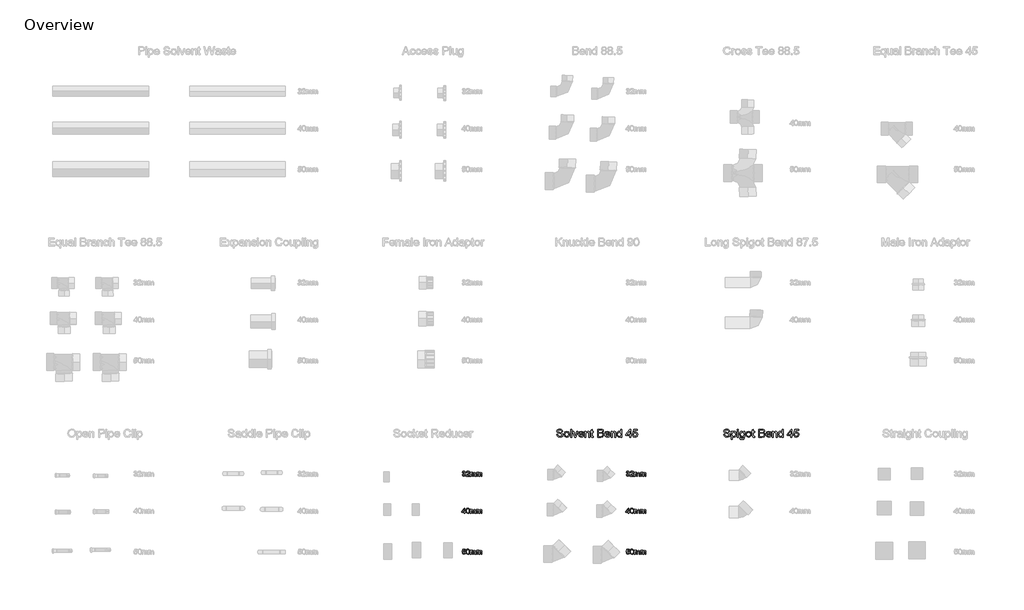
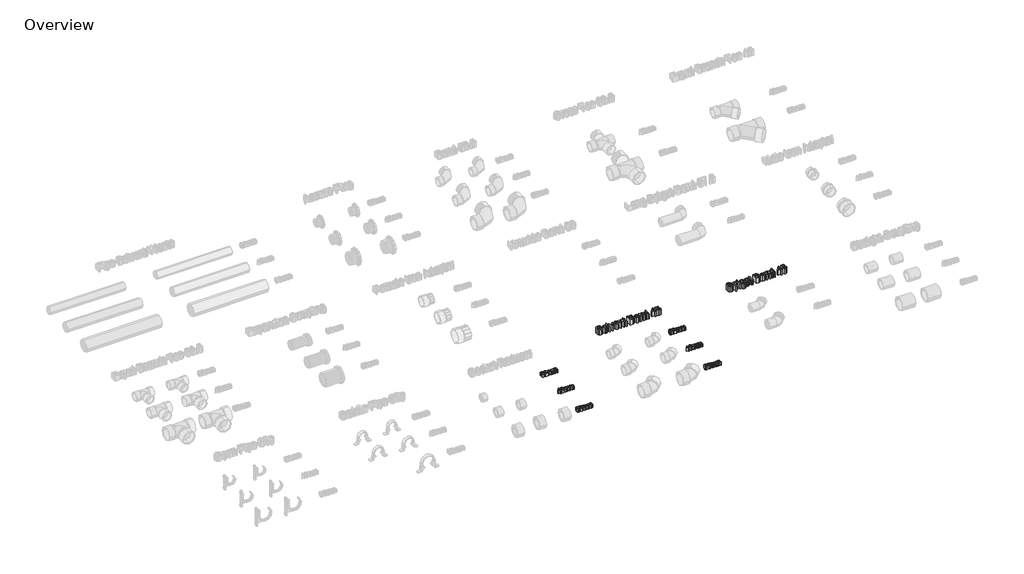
# One storey, part 3 of 10: 8 proxies.
"""IFC4 building model written with IfcOpenShell, lengths in millimetres."""

from ifc_helpers import new_model, si_unit, origin, origin_with_axes, place, context, project, spatial, polyline, outline, extrude, element, save

model = new_model("IFC4")

# Units and contexts
model_context = context("Model", 3, world=origin())
ifc_project = project(units=[si_unit("LENGTHUNIT", "METRE", prefix="MILLI")], contexts=[model_context])

# Site, building, storey
site = spatial("IfcSite", under=ifc_project)
building = spatial("IfcBuilding", under=site)
storey = spatial("IfcBuildingStorey", under=building, Name="Overview", Elevation=0.0)

# Proxies
placement = place(None, origin())
element("IfcBuildingElementProxy", 1, Name="20mm Arial", ObjectType="20mm Arial", at=placement, inside=storey, context=model_context, shape_type="SweptSolid", body=[
    extrude(outline(polyline([(-1698.2349117, 3721.4652453), (-1695.7733732, 3721.7729376), (-1694.4152001, 3719.1815914), (-1691.8743347, 3718.3883222), (-1688.8839501, 3719.4796684), (-1687.7733732, 3722.1815914), (-1688.8743347, 3724.7272645), (-1691.6724117, 3725.7344761), (-1693.3983732, 3725.4652453), (-1693.1243347, 3727.9267837), (-1689.9368347, 3728.6046684), (-1688.6964501, 3730.7777453), (-1689.5954886, 3732.7032261), (-1691.9127963, 3733.4652453), (-1694.2589501, 3732.6960145), (-1695.4656809, 3730.3883222), (-1697.9272194, 3730.6960145), (-1695.9127963, 3734.5565914), (-1691.9993347, 3735.9267837), (-1689.0305847, 3735.251303), (-1686.9536617, 3733.4051491), (-1686.2349117, 3730.9219761), (-1686.917604, 3728.6527453), (-1688.9368347, 3727.0229376), (-1686.2541424, 3725.3402453), (-1685.3118347, 3722.1383222), (-1687.1964501, 3717.7344761), (-1691.9608732, 3715.9267837), (-1696.2781809, 3717.470053), (-1698.2349117, 3721.4652453)])), origin_with_axes(), (0.0, 0.0, 1.0), 15.0),
    extrude(outline(polyline([(-1670.542604, 3718.6960145), (-1670.542604, 3716.2344761), (-1683.4656809, 3716.2344761), (-1683.2012578, 3717.9315914), (-1681.7060655, 3720.5445722), (-1678.6243347, 3723.3979376), (-1674.3743347, 3727.4988991), (-1673.3118347, 3730.2873607), (-1674.3142386, 3732.5445722), (-1676.9320271, 3733.4652453), (-1679.6603924, 3732.5662068), (-1680.6964501, 3730.0806299), (-1683.1579886, 3730.3883222), (-1681.2709694, 3734.5085145), (-1676.8791424, 3735.9267837), (-1672.4728924, 3734.3498607), (-1670.8502963, 3730.4363991), (-1671.2877963, 3728.1022645), (-1672.7421232, 3725.688803), (-1676.2685655, 3722.3162068), (-1679.1002963, 3719.9484184), (-1680.2108732, 3718.6960145), (-1670.542604, 3718.6960145)])), origin_with_axes(), (0.0, 0.0, 1.0), 15.0),
    extrude(outline(polyline([(-1667.4656809, 3716.2344761), (-1667.4656809, 3730.6960145), (-1665.0041424, 3730.6960145), (-1665.0041424, 3728.3162068), (-1663.3118347, 3730.2657261), (-1660.9031809, 3731.0037068), (-1658.4368347, 3730.251303), (-1657.0810655, 3728.1431299), (-1652.7349117, 3731.0037068), (-1649.5161617, 3729.813803), (-1648.3887578, 3726.1479376), (-1648.3887578, 3716.2344761), (-1650.8502963, 3716.2344761), (-1650.8502963, 3725.0902453), (-1651.0786617, 3727.1455337), (-1655.7325078, 3727.5565914), (-1656.6964501, 3724.3979376), (-1656.6964501, 3716.2344761), (-1659.1579886, 3716.2344761), (-1659.1579886, 3725.3642837), (-1659.7277001, 3727.7488991), (-1661.5954886, 3728.5421684), (-1663.417604, 3728.0133222), (-1664.6291424, 3726.4652453), (-1665.0041424, 3723.5277453), (-1665.0041424, 3716.2344761), (-1667.4656809, 3716.2344761)])), origin_with_axes(), (0.0, 0.0, 1.0), 15.0),
    extrude(outline(polyline([(-1644.6964501, 3716.2344761), (-1644.6964501, 3730.6960145), (-1642.2349117, 3730.6960145), (-1642.2349117, 3728.3162068), (-1640.542604, 3730.2657261), (-1638.1339501, 3731.0037068), (-1635.667604, 3730.251303), (-1634.3118347, 3728.1431299), (-1629.9656809, 3731.0037068), (-1626.7469309, 3729.813803), (-1625.6195271, 3726.1479376), (-1625.6195271, 3716.2344761), (-1628.0810655, 3716.2344761), (-1628.0810655, 3725.0902453), (-1628.3094309, 3727.1455337), (-1632.9632771, 3727.5565914), (-1633.9272194, 3724.3979376), (-1633.9272194, 3716.2344761), (-1636.3887578, 3716.2344761), (-1636.3887578, 3725.3642837), (-1636.9584694, 3727.7488991), (-1638.8262578, 3728.5421684), (-1640.6483732, 3728.0133222), (-1641.8599117, 3726.4652453), (-1642.2349117, 3723.5277453), (-1642.2349117, 3716.2344761), (-1644.6964501, 3716.2344761)])), origin_with_axes(), (0.0, 0.0, 1.0), 15.0),
])
element("IfcBuildingElementProxy", 2, Name="20mm Arial", ObjectType="20mm Arial", at=placement, inside=storey, context=model_context, shape_type="SweptSolid", body=[
    extrude(outline(polyline([(-1690.2349117, 3580.5685355), (-1690.2349117, 3585.1839201), (-1699.1579886, 3585.1839201), (-1699.1579886, 3587.6454586), (-1689.6195271, 3599.9531509), (-1687.7733732, 3599.9531509), (-1687.7733732, 3587.6454586), (-1685.3118347, 3587.6454586), (-1685.3118347, 3585.1839201), (-1687.7733732, 3585.1839201), (-1687.7733732, 3580.5685355), (-1690.2349117, 3580.5685355)]), holes=[polyline([(-1690.2349117, 3587.6454586), (-1690.2349117, 3595.2512278), (-1696.1291424, 3587.6454586), (-1690.2349117, 3587.6454586)])]), origin_with_axes(), (0.0, 0.0, 1.0), 15.0),
    extrude(outline(polyline([(-1683.1579886, 3590.2560355), (-1682.4344309, 3595.9219009), (-1680.2853924, 3599.1887278), (-1676.6964501, 3600.2608432), (-1673.8214501, 3599.6262278), (-1671.8358732, 3597.7969009), (-1670.6820271, 3594.8834393), (-1670.2349117, 3590.2560355), (-1670.9512578, 3584.6142086), (-1673.0930847, 3581.3401701), (-1676.6964501, 3580.2608432), (-1681.1964501, 3582.1358432), (-1683.1579886, 3590.2560355)]), holes=[polyline([(-1680.6964501, 3590.2608432), (-1679.542604, 3584.1478624), (-1676.6964501, 3582.7223816), (-1673.8502963, 3584.1526701), (-1672.6964501, 3590.2608432), (-1673.8118347, 3596.3041124), (-1676.7252963, 3597.7993047), (-1679.5041424, 3596.481997), (-1680.6964501, 3590.2608432)])]), origin_with_axes(), (0.0, 0.0, 1.0), 15.0),
    extrude(outline(polyline([(-1667.4656809, 3580.5685355), (-1667.4656809, 3595.030074), (-1665.0041424, 3595.030074), (-1665.0041424, 3592.6502663), (-1663.3118347, 3594.5997855), (-1660.9031809, 3595.3377663), (-1658.4368347, 3594.5853624), (-1657.0810655, 3592.4771893), (-1652.7349117, 3595.3377663), (-1649.5161617, 3594.1478624), (-1648.3887578, 3590.481997), (-1648.3887578, 3580.5685355), (-1650.8502963, 3580.5685355), (-1650.8502963, 3589.4243047), (-1651.0786617, 3591.4795932), (-1655.7325078, 3591.8906509), (-1656.6964501, 3588.731997), (-1656.6964501, 3580.5685355), (-1659.1579886, 3580.5685355), (-1659.1579886, 3589.6983432), (-1659.7277001, 3592.0829586), (-1661.5954886, 3592.8762278), (-1663.417604, 3592.3473816), (-1664.6291424, 3590.7993047), (-1665.0041424, 3587.8618047), (-1665.0041424, 3580.5685355), (-1667.4656809, 3580.5685355)])), origin_with_axes(), (0.0, 0.0, 1.0), 15.0),
    extrude(outline(polyline([(-1644.6964501, 3580.5685355), (-1644.6964501, 3595.030074), (-1642.2349117, 3595.030074), (-1642.2349117, 3592.6502663), (-1640.542604, 3594.5997855), (-1638.1339501, 3595.3377663), (-1635.667604, 3594.5853624), (-1634.3118347, 3592.4771893), (-1629.9656809, 3595.3377663), (-1626.7469309, 3594.1478624), (-1625.6195271, 3590.481997), (-1625.6195271, 3580.5685355), (-1628.0810655, 3580.5685355), (-1628.0810655, 3589.4243047), (-1628.3094309, 3591.4795932), (-1632.9632771, 3591.8906509), (-1633.9272194, 3588.731997), (-1633.9272194, 3580.5685355), (-1636.3887578, 3580.5685355), (-1636.3887578, 3589.6983432), (-1636.9584694, 3592.0829586), (-1638.8262578, 3592.8762278), (-1640.6483732, 3592.3473816), (-1641.8599117, 3590.7993047), (-1642.2349117, 3587.8618047), (-1642.2349117, 3580.5685355), (-1644.6964501, 3580.5685355)])), origin_with_axes(), (0.0, 0.0, 1.0), 15.0),
])
element("IfcBuildingElementProxy", 3, Name="20mm Arial", ObjectType="20mm Arial", at=placement, inside=storey, context=model_context, shape_type="SweptSolid", body=[
    extrude(outline(polyline([(-1698.2349117, 3436.1445961), (-1695.7733732, 3436.4522884), (-1694.5329886, 3433.9162307), (-1691.9608732, 3433.067673), (-1688.8743347, 3434.2479615), (-1687.7733732, 3437.380173), (-1688.8046232, 3440.3032499), (-1691.9224117, 3441.3753653), (-1694.0834694, 3440.9474807), (-1695.4656809, 3439.8369038), (-1697.9272194, 3440.1445961), (-1695.7733732, 3450.2984422), (-1686.2349117, 3450.2984422), (-1686.2349117, 3447.8369038), (-1693.7829886, 3447.8369038), (-1694.8358732, 3442.4138269), (-1691.2349117, 3443.8369038), (-1687.0257771, 3442.0724807), (-1685.3118347, 3437.5340192), (-1686.855104, 3432.9667115), (-1691.9704886, 3430.6061346), (-1696.3142386, 3432.1229615), (-1698.2349117, 3436.1445961)])), origin_with_axes(), (0.0, 0.0, 1.0), 15.0),
    extrude(outline(polyline([(-1683.1579886, 3440.6013269), (-1682.4344309, 3446.2671922), (-1680.2853924, 3449.5340192), (-1676.6964501, 3450.6061346), (-1673.8214501, 3449.9715192), (-1671.8358732, 3448.1421922), (-1670.6820271, 3445.2287307), (-1670.2349117, 3440.6013269), (-1670.9512578, 3434.9594999), (-1673.0930847, 3431.6854615), (-1676.6964501, 3430.6061346), (-1681.1964501, 3432.4811346), (-1683.1579886, 3440.6013269)]), holes=[polyline([(-1680.6964501, 3440.6061346), (-1679.542604, 3434.4931538), (-1676.6964501, 3433.067673), (-1673.8502963, 3434.4979615), (-1672.6964501, 3440.6061346), (-1673.8118347, 3446.6494038), (-1676.7252963, 3448.1445961), (-1679.5041424, 3446.8272884), (-1680.6964501, 3440.6061346)])]), origin_with_axes(), (0.0, 0.0, 1.0), 15.0),
    extrude(outline(polyline([(-1667.4656809, 3430.9138269), (-1667.4656809, 3445.3753653), (-1665.0041424, 3445.3753653), (-1665.0041424, 3442.9955576), (-1663.3118347, 3444.9450769), (-1660.9031809, 3445.6830576), (-1658.4368347, 3444.9306538), (-1657.0810655, 3442.8224807), (-1652.7349117, 3445.6830576), (-1649.5161617, 3444.4931538), (-1648.3887578, 3440.8272884), (-1648.3887578, 3430.9138269), (-1650.8502963, 3430.9138269), (-1650.8502963, 3439.7695961), (-1651.0786617, 3441.8248846), (-1655.7325078, 3442.2359422), (-1656.6964501, 3439.0772884), (-1656.6964501, 3430.9138269), (-1659.1579886, 3430.9138269), (-1659.1579886, 3440.0436346), (-1659.7277001, 3442.4282499), (-1661.5954886, 3443.2215192), (-1663.417604, 3442.692673), (-1664.6291424, 3441.1445961), (-1665.0041424, 3438.2070961), (-1665.0041424, 3430.9138269), (-1667.4656809, 3430.9138269)])), origin_with_axes(), (0.0, 0.0, 1.0), 15.0),
    extrude(outline(polyline([(-1644.6964501, 3430.9138269), (-1644.6964501, 3445.3753653), (-1642.2349117, 3445.3753653), (-1642.2349117, 3442.9955576), (-1640.542604, 3444.9450769), (-1638.1339501, 3445.6830576), (-1635.667604, 3444.9306538), (-1634.3118347, 3442.8224807), (-1629.9656809, 3445.6830576), (-1626.7469309, 3444.4931538), (-1625.6195271, 3440.8272884), (-1625.6195271, 3430.9138269), (-1628.0810655, 3430.9138269), (-1628.0810655, 3439.7695961), (-1628.3094309, 3441.8248846), (-1632.9632771, 3442.2359422), (-1633.9272194, 3439.0772884), (-1633.9272194, 3430.9138269), (-1636.3887578, 3430.9138269), (-1636.3887578, 3440.0436346), (-1636.9584694, 3442.4282499), (-1638.8262578, 3443.2215192), (-1640.6483732, 3442.692673), (-1641.8599117, 3441.1445961), (-1642.2349117, 3438.2070961), (-1642.2349117, 3430.9138269), (-1644.6964501, 3430.9138269)])), origin_with_axes(), (0.0, 0.0, 1.0), 15.0),
])
element("IfcBuildingElementProxy", 4, Name="20mm Arial", ObjectType="20mm Arial", at=placement, inside=storey, context=model_context, shape_type="SweptSolid", body=[
    extrude(outline(polyline([(-1098.2349117, 3721.4652453), (-1095.7733732, 3721.7729376), (-1094.4152001, 3719.1815914), (-1091.8743347, 3718.3883222), (-1088.8839501, 3719.4796684), (-1087.7733732, 3722.1815914), (-1088.8743347, 3724.7272645), (-1091.6724117, 3725.7344761), (-1093.3983732, 3725.4652453), (-1093.1243347, 3727.9267837), (-1089.9368347, 3728.6046684), (-1088.6964501, 3730.7777453), (-1089.5954886, 3732.7032261), (-1091.9127963, 3733.4652453), (-1094.2589501, 3732.6960145), (-1095.4656809, 3730.3883222), (-1097.9272194, 3730.6960145), (-1095.9127963, 3734.5565914), (-1091.9993347, 3735.9267837), (-1089.0305847, 3735.251303), (-1086.9536617, 3733.4051491), (-1086.2349117, 3730.9219761), (-1086.917604, 3728.6527453), (-1088.9368347, 3727.0229376), (-1086.2541424, 3725.3402453), (-1085.3118347, 3722.1383222), (-1087.1964501, 3717.7344761), (-1091.9608732, 3715.9267837), (-1096.2781809, 3717.470053), (-1098.2349117, 3721.4652453)])), origin_with_axes(), (0.0, 0.0, 1.0), 15.0),
    extrude(outline(polyline([(-1070.542604, 3718.6960145), (-1070.542604, 3716.2344761), (-1083.4656809, 3716.2344761), (-1083.2012578, 3717.9315914), (-1081.7060655, 3720.5445722), (-1078.6243347, 3723.3979376), (-1074.3743347, 3727.4988991), (-1073.3118347, 3730.2873607), (-1074.3142386, 3732.5445722), (-1076.9320271, 3733.4652453), (-1079.6603924, 3732.5662068), (-1080.6964501, 3730.0806299), (-1083.1579886, 3730.3883222), (-1081.2709694, 3734.5085145), (-1076.8791424, 3735.9267837), (-1072.4728924, 3734.3498607), (-1070.8502963, 3730.4363991), (-1071.2877963, 3728.1022645), (-1072.7421232, 3725.688803), (-1076.2685655, 3722.3162068), (-1079.1002963, 3719.9484184), (-1080.2108732, 3718.6960145), (-1070.542604, 3718.6960145)])), origin_with_axes(), (0.0, 0.0, 1.0), 15.0),
    extrude(outline(polyline([(-1067.4656809, 3716.2344761), (-1067.4656809, 3730.6960145), (-1065.0041424, 3730.6960145), (-1065.0041424, 3728.3162068), (-1063.3118347, 3730.2657261), (-1060.9031809, 3731.0037068), (-1058.4368347, 3730.251303), (-1057.0810655, 3728.1431299), (-1052.7349117, 3731.0037068), (-1049.5161617, 3729.813803), (-1048.3887578, 3726.1479376), (-1048.3887578, 3716.2344761), (-1050.8502963, 3716.2344761), (-1050.8502963, 3725.0902453), (-1051.0786617, 3727.1455337), (-1055.7325078, 3727.5565914), (-1056.6964501, 3724.3979376), (-1056.6964501, 3716.2344761), (-1059.1579886, 3716.2344761), (-1059.1579886, 3725.3642837), (-1059.7277001, 3727.7488991), (-1061.5954886, 3728.5421684), (-1063.417604, 3728.0133222), (-1064.6291424, 3726.4652453), (-1065.0041424, 3723.5277453), (-1065.0041424, 3716.2344761), (-1067.4656809, 3716.2344761)])), origin_with_axes(), (0.0, 0.0, 1.0), 15.0),
    extrude(outline(polyline([(-1044.6964501, 3716.2344761), (-1044.6964501, 3730.6960145), (-1042.2349117, 3730.6960145), (-1042.2349117, 3728.3162068), (-1040.542604, 3730.2657261), (-1038.1339501, 3731.0037068), (-1035.667604, 3730.251303), (-1034.3118347, 3728.1431299), (-1029.9656809, 3731.0037068), (-1026.7469309, 3729.813803), (-1025.6195271, 3726.1479376), (-1025.6195271, 3716.2344761), (-1028.0810655, 3716.2344761), (-1028.0810655, 3725.0902453), (-1028.3094309, 3727.1455337), (-1032.9632771, 3727.5565914), (-1033.9272194, 3724.3979376), (-1033.9272194, 3716.2344761), (-1036.3887578, 3716.2344761), (-1036.3887578, 3725.3642837), (-1036.9584694, 3727.7488991), (-1038.8262578, 3728.5421684), (-1040.6483732, 3728.0133222), (-1041.8599117, 3726.4652453), (-1042.2349117, 3723.5277453), (-1042.2349117, 3716.2344761), (-1044.6964501, 3716.2344761)])), origin_with_axes(), (0.0, 0.0, 1.0), 15.0),
])
element("IfcBuildingElementProxy", 5, Name="20mm Arial", ObjectType="20mm Arial", at=placement, inside=storey, context=model_context, shape_type="SweptSolid", body=[
    extrude(outline(polyline([(-1090.2349117, 3580.5685355), (-1090.2349117, 3585.1839201), (-1099.1579886, 3585.1839201), (-1099.1579886, 3587.6454586), (-1089.6195271, 3599.9531509), (-1087.7733732, 3599.9531509), (-1087.7733732, 3587.6454586), (-1085.3118347, 3587.6454586), (-1085.3118347, 3585.1839201), (-1087.7733732, 3585.1839201), (-1087.7733732, 3580.5685355), (-1090.2349117, 3580.5685355)]), holes=[polyline([(-1090.2349117, 3587.6454586), (-1090.2349117, 3595.2512278), (-1096.1291424, 3587.6454586), (-1090.2349117, 3587.6454586)])]), origin_with_axes(), (0.0, 0.0, 1.0), 15.0),
    extrude(outline(polyline([(-1083.1579886, 3590.2560355), (-1082.4344309, 3595.9219009), (-1080.2853924, 3599.1887278), (-1076.6964501, 3600.2608432), (-1073.8214501, 3599.6262278), (-1071.8358732, 3597.7969009), (-1070.6820271, 3594.8834393), (-1070.2349117, 3590.2560355), (-1070.9512578, 3584.6142086), (-1073.0930847, 3581.3401701), (-1076.6964501, 3580.2608432), (-1081.1964501, 3582.1358432), (-1083.1579886, 3590.2560355)]), holes=[polyline([(-1080.6964501, 3590.2608432), (-1079.542604, 3584.1478624), (-1076.6964501, 3582.7223816), (-1073.8502963, 3584.1526701), (-1072.6964501, 3590.2608432), (-1073.8118347, 3596.3041124), (-1076.7252963, 3597.7993047), (-1079.5041424, 3596.481997), (-1080.6964501, 3590.2608432)])]), origin_with_axes(), (0.0, 0.0, 1.0), 15.0),
    extrude(outline(polyline([(-1067.4656809, 3580.5685355), (-1067.4656809, 3595.030074), (-1065.0041424, 3595.030074), (-1065.0041424, 3592.6502663), (-1063.3118347, 3594.5997855), (-1060.9031809, 3595.3377663), (-1058.4368347, 3594.5853624), (-1057.0810655, 3592.4771893), (-1052.7349117, 3595.3377663), (-1049.5161617, 3594.1478624), (-1048.3887578, 3590.481997), (-1048.3887578, 3580.5685355), (-1050.8502963, 3580.5685355), (-1050.8502963, 3589.4243047), (-1051.0786617, 3591.4795932), (-1055.7325078, 3591.8906509), (-1056.6964501, 3588.731997), (-1056.6964501, 3580.5685355), (-1059.1579886, 3580.5685355), (-1059.1579886, 3589.6983432), (-1059.7277001, 3592.0829586), (-1061.5954886, 3592.8762278), (-1063.417604, 3592.3473816), (-1064.6291424, 3590.7993047), (-1065.0041424, 3587.8618047), (-1065.0041424, 3580.5685355), (-1067.4656809, 3580.5685355)])), origin_with_axes(), (0.0, 0.0, 1.0), 15.0),
    extrude(outline(polyline([(-1044.6964501, 3580.5685355), (-1044.6964501, 3595.030074), (-1042.2349117, 3595.030074), (-1042.2349117, 3592.6502663), (-1040.542604, 3594.5997855), (-1038.1339501, 3595.3377663), (-1035.667604, 3594.5853624), (-1034.3118347, 3592.4771893), (-1029.9656809, 3595.3377663), (-1026.7469309, 3594.1478624), (-1025.6195271, 3590.481997), (-1025.6195271, 3580.5685355), (-1028.0810655, 3580.5685355), (-1028.0810655, 3589.4243047), (-1028.3094309, 3591.4795932), (-1032.9632771, 3591.8906509), (-1033.9272194, 3588.731997), (-1033.9272194, 3580.5685355), (-1036.3887578, 3580.5685355), (-1036.3887578, 3589.6983432), (-1036.9584694, 3592.0829586), (-1038.8262578, 3592.8762278), (-1040.6483732, 3592.3473816), (-1041.8599117, 3590.7993047), (-1042.2349117, 3587.8618047), (-1042.2349117, 3580.5685355), (-1044.6964501, 3580.5685355)])), origin_with_axes(), (0.0, 0.0, 1.0), 15.0),
])
element("IfcBuildingElementProxy", 6, Name="20mm Arial", ObjectType="20mm Arial", at=placement, inside=storey, context=model_context, shape_type="SweptSolid", body=[
    extrude(outline(polyline([(-1098.2349117, 3436.1445961), (-1095.7733732, 3436.4522884), (-1094.5329886, 3433.9162307), (-1091.9608732, 3433.067673), (-1088.8743347, 3434.2479615), (-1087.7733732, 3437.380173), (-1088.8046232, 3440.3032499), (-1091.9224117, 3441.3753653), (-1094.0834694, 3440.9474807), (-1095.4656809, 3439.8369038), (-1097.9272194, 3440.1445961), (-1095.7733732, 3450.2984422), (-1086.2349117, 3450.2984422), (-1086.2349117, 3447.8369038), (-1093.7829886, 3447.8369038), (-1094.8358732, 3442.4138269), (-1091.2349117, 3443.8369038), (-1087.0257771, 3442.0724807), (-1085.3118347, 3437.5340192), (-1086.855104, 3432.9667115), (-1091.9704886, 3430.6061346), (-1096.3142386, 3432.1229615), (-1098.2349117, 3436.1445961)])), origin_with_axes(), (0.0, 0.0, 1.0), 15.0),
    extrude(outline(polyline([(-1083.1579886, 3440.6013269), (-1082.4344309, 3446.2671922), (-1080.2853924, 3449.5340192), (-1076.6964501, 3450.6061346), (-1073.8214501, 3449.9715192), (-1071.8358732, 3448.1421922), (-1070.6820271, 3445.2287307), (-1070.2349117, 3440.6013269), (-1070.9512578, 3434.9594999), (-1073.0930847, 3431.6854615), (-1076.6964501, 3430.6061346), (-1081.1964501, 3432.4811346), (-1083.1579886, 3440.6013269)]), holes=[polyline([(-1080.6964501, 3440.6061346), (-1079.542604, 3434.4931538), (-1076.6964501, 3433.067673), (-1073.8502963, 3434.4979615), (-1072.6964501, 3440.6061346), (-1073.8118347, 3446.6494038), (-1076.7252963, 3448.1445961), (-1079.5041424, 3446.8272884), (-1080.6964501, 3440.6061346)])]), origin_with_axes(), (0.0, 0.0, 1.0), 15.0),
    extrude(outline(polyline([(-1067.4656809, 3430.9138269), (-1067.4656809, 3445.3753653), (-1065.0041424, 3445.3753653), (-1065.0041424, 3442.9955576), (-1063.3118347, 3444.9450769), (-1060.9031809, 3445.6830576), (-1058.4368347, 3444.9306538), (-1057.0810655, 3442.8224807), (-1052.7349117, 3445.6830576), (-1049.5161617, 3444.4931538), (-1048.3887578, 3440.8272884), (-1048.3887578, 3430.9138269), (-1050.8502963, 3430.9138269), (-1050.8502963, 3439.7695961), (-1051.0786617, 3441.8248846), (-1055.7325078, 3442.2359422), (-1056.6964501, 3439.0772884), (-1056.6964501, 3430.9138269), (-1059.1579886, 3430.9138269), (-1059.1579886, 3440.0436346), (-1059.7277001, 3442.4282499), (-1061.5954886, 3443.2215192), (-1063.417604, 3442.692673), (-1064.6291424, 3441.1445961), (-1065.0041424, 3438.2070961), (-1065.0041424, 3430.9138269), (-1067.4656809, 3430.9138269)])), origin_with_axes(), (0.0, 0.0, 1.0), 15.0),
    extrude(outline(polyline([(-1044.6964501, 3430.9138269), (-1044.6964501, 3445.3753653), (-1042.2349117, 3445.3753653), (-1042.2349117, 3442.9955576), (-1040.542604, 3444.9450769), (-1038.1339501, 3445.6830576), (-1035.667604, 3444.9306538), (-1034.3118347, 3442.8224807), (-1029.9656809, 3445.6830576), (-1026.7469309, 3444.4931538), (-1025.6195271, 3440.8272884), (-1025.6195271, 3430.9138269), (-1028.0810655, 3430.9138269), (-1028.0810655, 3439.7695961), (-1028.3094309, 3441.8248846), (-1032.9632771, 3442.2359422), (-1033.9272194, 3439.0772884), (-1033.9272194, 3430.9138269), (-1036.3887578, 3430.9138269), (-1036.3887578, 3440.0436346), (-1036.9584694, 3442.4282499), (-1038.8262578, 3443.2215192), (-1040.6483732, 3442.692673), (-1041.8599117, 3441.1445961), (-1042.2349117, 3438.2070961), (-1042.2349117, 3430.9138269), (-1044.6964501, 3430.9138269)])), origin_with_axes(), (0.0, 0.0, 1.0), 15.0),
])
element("IfcBuildingElementProxy", 7, Name="600mm Arial", ObjectType="600mm Arial", at=placement, inside=storey, context=model_context, shape_type="SweptSolid", body=[
    extrude(outline(polyline([(-1352.069278, 3869.7251615), (-1348.3769703, 3869.7251615), (-1347.1870665, 3866.0292481), (-1344.2808165, 3863.6927096), (-1339.8529319, 3862.8020846), (-1335.9947588, 3863.4763635), (-1333.5031722, 3865.3297288), (-1332.6846626, 3867.8068923), (-1333.2976434, 3870.1109788), (-1335.8072588, 3871.7876615), (-1341.1834607, 3873.1975173), (-1346.9707203, 3875.0184308), (-1350.1113453, 3877.7660269), (-1351.1462011, 3881.4367), (-1349.866153, 3885.6157865), (-1346.1269703, 3888.5653058), (-1340.6534126, 3889.5713154), (-1334.8120665, 3888.5184308), (-1330.9178357, 3885.4246808), (-1329.4538934, 3880.8020846), (-1333.1462011, 3880.8020846), (-1335.2375472, 3884.5953538), (-1340.5091819, 3885.8790077), (-1345.7952396, 3884.6097769), (-1347.4538934, 3881.5448731), (-1346.2784126, 3878.9847769), (-1340.2495665, 3876.9222769), (-1333.7159126, 3875.0689115), (-1330.1425953, 3872.0761231), (-1328.9923549, 3867.9006423), (-1330.3156722, 3863.483575), (-1334.1233646, 3860.2600173), (-1339.7087011, 3859.1097769), (-1346.303653, 3860.3501615), (-1350.475528, 3864.0857385), (-1352.069278, 3869.7251615)])), origin_with_axes(), (0.0, 0.0, 1.0), 25.0),
    extrude(outline(polyline([(-1324.8385088, 3870.4174692), (-1321.6437972, 3879.3237192), (-1315.1389896, 3881.7251615), (-1308.1618261, 3878.8008827), (-1305.4538934, 3870.7203538), (-1306.6510088, 3864.1506423), (-1310.1377876, 3860.4330942), (-1315.1389896, 3859.1097769), (-1322.1594222, 3862.0232385), (-1324.8385088, 3870.4174692)]), holes=[polyline([(-1321.1462011, 3870.4246808), (-1319.4370665, 3864.702325), (-1315.1389896, 3862.8020846), (-1310.8553357, 3864.7131423), (-1309.1462011, 3870.5400654), (-1310.866153, 3876.1326135), (-1315.1389896, 3878.0328538), (-1319.4370665, 3876.139825), (-1321.1462011, 3870.4246808)])]), origin_with_axes(), (0.0, 0.0, 1.0), 25.0),
    extrude(outline(polyline([(-1301.3000472, 3859.5713154), (-1301.3000472, 3889.1097769), (-1297.6077396, 3889.1097769), (-1297.6077396, 3859.5713154), (-1301.3000472, 3859.5713154)])), origin_with_axes(), (0.0, 0.0, 1.0), 25.0),
    extrude(outline(polyline([(-1286.7471626, 3859.5713154), (-1294.3769703, 3881.2636231), (-1290.4683165, 3881.2636231), (-1285.8457203, 3868.2684308), (-1284.4538934, 3863.8982385), (-1283.0909126, 3868.0232385), (-1278.4394703, 3881.2636231), (-1274.5308165, 3881.2636231), (-1282.0668742, 3859.5713154), (-1286.7471626, 3859.5713154)])), origin_with_axes(), (0.0, 0.0, 1.0), 25.0),
    extrude(outline(polyline([(-1256.1125472, 3866.0328538), (-1252.4923549, 3865.5713154), (-1255.8781722, 3860.8044885), (-1262.1846626, 3859.1097769), (-1269.850528, 3862.0340558), (-1272.6846626, 3870.2371808), (-1269.8216819, 3878.7107385), (-1262.3937972, 3881.7251615), (-1255.178653, 3878.71795), (-1252.3769703, 3870.2588154), (-1268.9923549, 3869.2636231), (-1266.8685569, 3864.46795), (-1262.1125472, 3862.8020846), (-1258.4923549, 3863.5737192), (-1256.1125472, 3866.0328538)]), holes=[polyline([(-1268.9923549, 3872.9559308), (-1256.069278, 3872.9559308), (-1257.5476434, 3876.3020846), (-1262.4082203, 3878.0328538), (-1266.9550953, 3876.6518442), (-1268.9923549, 3872.9559308)])]), origin_with_axes(), (0.0, 0.0, 1.0), 25.0),
    extrude(outline(polyline([(-1248.6846626, 3859.5713154), (-1248.6846626, 3881.2636231), (-1244.9923549, 3881.2636231), (-1244.9923549, 3878.2347769), (-1238.3144703, 3881.7251615), (-1234.8276915, 3881.0220365), (-1232.4478838, 3879.1758827), (-1231.3409126, 3876.4607385), (-1231.1462011, 3872.8910269), (-1231.1462011, 3859.5713154), (-1234.8385088, 3859.5713154), (-1234.8385088, 3872.3934308), (-1235.2639896, 3875.6602577), (-1236.7675953, 3877.3874212), (-1239.3024511, 3878.0328538), (-1243.3084607, 3876.5833346), (-1244.9923549, 3871.0809308), (-1244.9923549, 3859.5713154), (-1248.6846626, 3859.5713154)])), origin_with_axes(), (0.0, 0.0, 1.0), 25.0),
    extrude(outline(polyline([(-1218.2231242, 3862.6506423), (-1217.7615857, 3859.4631423), (-1220.5236049, 3859.1097769), (-1223.6173549, 3859.7227577), (-1225.1606242, 3861.3309308), (-1225.6077396, 3865.5208346), (-1225.6077396, 3877.5713154), (-1228.3769703, 3877.5713154), (-1228.3769703, 3881.2636231), (-1225.6077396, 3881.2636231), (-1225.6077396, 3886.5352577), (-1221.9154319, 3888.7059308), (-1221.9154319, 3881.2636231), (-1218.2231242, 3881.2636231), (-1218.2231242, 3877.5713154), (-1221.9154319, 3877.5713154), (-1221.9154319, 3865.6290077), (-1221.7207203, 3863.7251615), (-1218.2231242, 3862.6506423)])), origin_with_axes(), (0.0, 0.0, 1.0), 25.0),
    extrude(outline(polyline([(-1202.5308165, 3859.5713154), (-1202.5308165, 3889.1097769), (-1191.2591819, 3889.1097769), (-1185.7387492, 3888.2407865), (-1182.4791338, 3885.5689115), (-1181.3000472, 3881.7900654), (-1182.2916338, 3878.3393442), (-1185.288028, 3875.7251615), (-1181.6498069, 3872.9703538), (-1180.3769703, 3868.3766038), (-1181.2459607, 3864.4066519), (-1183.3986049, 3861.5797288), (-1186.6113453, 3860.0797288), (-1191.3457203, 3859.5713154), (-1202.5308165, 3859.5713154)]), holes=[polyline([(-1198.8385088, 3877.1097769), (-1192.0957203, 3877.1097769), (-1188.1582203, 3877.4270846), (-1185.7892299, 3878.7936712), (-1184.9923549, 3881.1987192), (-1185.7351434, 3883.6073731), (-1187.8625472, 3885.0316519), (-1192.6077396, 3885.4174692), (-1198.8385088, 3885.4174692), (-1198.8385088, 3877.1097769)]), polyline([(-1198.8385088, 3863.2636231), (-1191.2663934, 3863.2636231), (-1188.5260088, 3863.4078538), (-1186.2074992, 3864.2119404), (-1184.6714415, 3865.8525654), (-1184.069278, 3868.3405462), (-1184.7760088, 3871.2107385), (-1187.0656722, 3872.9234788), (-1191.6269703, 3873.4174692), (-1198.8385088, 3873.4174692), (-1198.8385088, 3863.2636231)])]), origin_with_axes(), (0.0, 0.0, 1.0), 25.0),
    extrude(outline(polyline([(-1160.5740857, 3866.0328538), (-1156.9538934, 3865.5713154), (-1160.3397107, 3860.8044885), (-1166.6462011, 3859.1097769), (-1174.3120665, 3862.0340558), (-1177.1462011, 3870.2371808), (-1174.2832203, 3878.7107385), (-1166.8553357, 3881.7251615), (-1159.6401915, 3878.71795), (-1156.8385088, 3870.2588154), (-1173.4538934, 3869.2636231), (-1171.3300953, 3864.46795), (-1166.5740857, 3862.8020846), (-1162.9538934, 3863.5737192), (-1160.5740857, 3866.0328538)]), holes=[polyline([(-1173.4538934, 3872.9559308), (-1160.5308165, 3872.9559308), (-1162.0091819, 3876.3020846), (-1166.8697588, 3878.0328538), (-1171.4166338, 3876.6518442), (-1173.4538934, 3872.9559308)])]), origin_with_axes(), (0.0, 0.0, 1.0), 25.0),
    extrude(outline(polyline([(-1153.1462011, 3859.5713154), (-1153.1462011, 3881.2636231), (-1149.4538934, 3881.2636231), (-1149.4538934, 3878.2347769), (-1142.7760088, 3881.7251615), (-1139.2892299, 3881.0220365), (-1136.9094222, 3879.1758827), (-1135.8024511, 3876.4607385), (-1135.6077396, 3872.8910269), (-1135.6077396, 3859.5713154), (-1139.3000472, 3859.5713154), (-1139.3000472, 3872.3934308), (-1139.725528, 3875.6602577), (-1141.2291338, 3877.3874212), (-1143.7639896, 3878.0328538), (-1147.7699992, 3876.5833346), (-1149.4538934, 3871.0809308), (-1149.4538934, 3859.5713154), (-1153.1462011, 3859.5713154)])), origin_with_axes(), (0.0, 0.0, 1.0), 25.0),
    extrude(outline(polyline([(-1117.1462011, 3859.5713154), (-1117.1462011, 3863.0544885), (-1122.9659126, 3859.1097769), (-1127.538028, 3860.5376615), (-1130.7687972, 3864.5220365), (-1131.9154319, 3870.3958346), (-1130.8589415, 3876.2732385), (-1127.6930761, 3880.3189115), (-1122.9803357, 3881.7251615), (-1119.5764896, 3880.7191519), (-1117.1462011, 3878.1049692), (-1117.1462011, 3889.1097769), (-1113.4538934, 3889.1097769), (-1113.4538934, 3859.5713154), (-1117.1462011, 3859.5713154)]), holes=[polyline([(-1128.2231242, 3870.4102577), (-1126.5572588, 3864.6951135), (-1122.6269703, 3862.8020846), (-1118.7435569, 3864.608575), (-1117.1462011, 3870.1290077), (-1118.772403, 3876.1217962), (-1122.7784126, 3878.0328538), (-1126.6654319, 3876.1975173), (-1128.2231242, 3870.4102577)])]), origin_with_axes(), (0.0, 0.0, 1.0), 25.0),
    extrude(outline(polyline([(-1085.3000472, 3859.5713154), (-1085.3000472, 3866.4943923), (-1098.6846626, 3866.4943923), (-1098.6846626, 3870.1867), (-1084.3769703, 3888.6482385), (-1081.6077396, 3888.6482385), (-1081.6077396, 3870.1867), (-1077.9154319, 3870.1867), (-1077.9154319, 3866.4943923), (-1081.6077396, 3866.4943923), (-1081.6077396, 3859.5713154), (-1085.3000472, 3859.5713154)]), holes=[polyline([(-1085.3000472, 3870.1867), (-1085.3000472, 3881.5953538), (-1094.1413934, 3870.1867), (-1085.3000472, 3870.1867)])]), origin_with_axes(), (0.0, 0.0, 1.0), 25.0),
    extrude(outline(polyline([(-1074.6846626, 3867.4174692), (-1070.9923549, 3867.8790077), (-1069.131778, 3864.0749212), (-1065.2736049, 3862.8020846), (-1060.6437972, 3864.5725173), (-1058.9923549, 3869.2708346), (-1060.5392299, 3873.65545), (-1065.2159126, 3875.2636231), (-1068.4574992, 3874.6217962), (-1070.5308165, 3872.9559308), (-1074.2231242, 3873.4174692), (-1070.9923549, 3888.6482385), (-1056.6846626, 3888.6482385), (-1056.6846626, 3884.9559308), (-1068.006778, 3884.9559308), (-1069.5861049, 3876.8213154), (-1064.1846626, 3878.9559308), (-1057.8709607, 3876.3092962), (-1055.3000472, 3869.5016038), (-1057.6149511, 3862.6506423), (-1065.288028, 3859.1097769), (-1071.803653, 3861.3850173), (-1074.6846626, 3867.4174692)])), origin_with_axes(), (0.0, 0.0, 1.0), 25.0),
])
element("IfcBuildingElementProxy", 8, Name="600mm Arial", ObjectType="600mm Arial", at=placement, inside=storey, context=model_context, shape_type="SweptSolid", body=[
    extrude(outline(polyline([(-741.6846626, 3869.7251615), (-737.9923549, 3869.7251615), (-736.8024511, 3866.0292481), (-733.8962011, 3863.6927096), (-729.4683165, 3862.8020846), (-725.6101434, 3863.4763635), (-723.1185569, 3865.3297288), (-722.3000472, 3867.8068923), (-722.913028, 3870.1109788), (-725.4226434, 3871.7876615), (-730.7988453, 3873.1975173), (-736.5861049, 3875.0184308), (-739.7267299, 3877.7660269), (-740.7615857, 3881.4367), (-739.4815376, 3885.6157865), (-735.7423549, 3888.5653058), (-730.2687972, 3889.5713154), (-724.4274511, 3888.5184308), (-720.5332203, 3885.4246808), (-719.069278, 3880.8020846), (-722.7615857, 3880.8020846), (-724.8529319, 3884.5953538), (-730.1245665, 3885.8790077), (-735.4106242, 3884.6097769), (-737.069278, 3881.5448731), (-735.8937972, 3878.9847769), (-729.8649511, 3876.9222769), (-723.3312972, 3875.0689115), (-719.7579799, 3872.0761231), (-718.6077396, 3867.9006423), (-719.9310569, 3863.483575), (-723.7387492, 3860.2600173), (-729.3240857, 3859.1097769), (-735.9190376, 3860.3501615), (-740.0909126, 3864.0857385), (-741.6846626, 3869.7251615)])), origin_with_axes(), (0.0, 0.0, 1.0), 25.0),
    extrude(outline(polyline([(-713.5308165, 3851.2636231), (-713.5308165, 3881.2636231), (-709.8385088, 3881.2636231), (-709.8385088, 3877.6434308), (-707.2856242, 3880.7047288), (-703.8385088, 3881.7251615), (-699.1582203, 3880.2972769), (-696.100528, 3876.2732385), (-695.069278, 3870.5833346), (-696.2339415, 3864.6013635), (-699.616153, 3860.5268442), (-704.2856242, 3859.1097769), (-707.4983646, 3860.0580942), (-709.8385088, 3862.4559308), (-709.8385088, 3851.2636231), (-713.5308165, 3851.2636231)]), holes=[polyline([(-709.8385088, 3870.2443923), (-708.241153, 3864.6193923), (-704.3649511, 3862.8020846), (-700.4094222, 3864.6842962), (-698.7615857, 3870.5184308), (-700.3697588, 3876.1578538), (-704.2135088, 3878.0328538), (-708.1329799, 3876.0388635), (-709.8385088, 3870.2443923)])]), origin_with_axes(), (0.0, 0.0, 1.0), 25.0),
    extrude(outline(polyline([(-690.9154319, 3885.4174692), (-690.9154319, 3889.1097769), (-687.2231242, 3889.1097769), (-687.2231242, 3885.4174692), (-690.9154319, 3885.4174692)])), origin_with_axes(), (0.0, 0.0, 1.0), 25.0),
    extrude(outline(polyline([(-690.9154319, 3859.5713154), (-690.9154319, 3881.2636231), (-687.2231242, 3881.2636231), (-687.2231242, 3859.5713154), (-690.9154319, 3859.5713154)])), origin_with_axes(), (0.0, 0.0, 1.0), 25.0),
    extrude(outline(polyline([(-682.6077396, 3857.7251615), (-678.9154319, 3857.2636231), (-677.7183165, 3855.3165077), (-674.1341819, 3854.4943923), (-670.3553357, 3855.4246808), (-668.5524511, 3858.0352577), (-668.3000472, 3862.3405462), (-674.069278, 3859.5713154), (-680.7147107, 3862.7948731), (-683.069278, 3870.5256423), (-682.0127876, 3876.2479981), (-678.9550953, 3880.2972769), (-674.2495665, 3881.7251615), (-668.3000472, 3878.4943923), (-668.3000472, 3881.2636231), (-664.6077396, 3881.2636231), (-664.6077396, 3862.5352577), (-665.6173549, 3855.3633827), (-668.8156722, 3852.0280462), (-674.2062972, 3850.8020846), (-680.3469222, 3852.5292481), (-682.6077396, 3857.7251615)]), holes=[polyline([(-679.3769703, 3870.7780462), (-677.8012492, 3865.0629019), (-673.8457203, 3863.2636231), (-669.897403, 3865.0520846), (-668.3000472, 3870.6698731), (-669.944278, 3876.1758827), (-673.9034126, 3878.0328538), (-677.7796146, 3876.2047288), (-679.3769703, 3870.7780462)])]), origin_with_axes(), (0.0, 0.0, 1.0), 25.0),
    extrude(outline(polyline([(-659.9923549, 3870.4174692), (-656.7976434, 3879.3237192), (-650.2928357, 3881.7251615), (-643.3156722, 3878.8008827), (-640.6077396, 3870.7203538), (-641.8048549, 3864.1506423), (-645.2916338, 3860.4330942), (-650.2928357, 3859.1097769), (-657.3132684, 3862.0232385), (-659.9923549, 3870.4174692)]), holes=[polyline([(-656.3000472, 3870.4246808), (-654.5909126, 3864.702325), (-650.2928357, 3862.8020846), (-646.0091819, 3864.7131423), (-644.3000472, 3870.5400654), (-646.0199992, 3876.1326135), (-650.2928357, 3878.0328538), (-654.5909126, 3876.139825), (-656.3000472, 3870.4246808)])]), origin_with_axes(), (0.0, 0.0, 1.0), 25.0),
    extrude(outline(polyline([(-628.6077396, 3862.6506423), (-628.1462011, 3859.4631423), (-630.9082203, 3859.1097769), (-634.0019703, 3859.7227577), (-635.5452396, 3861.3309308), (-635.9923549, 3865.5208346), (-635.9923549, 3877.5713154), (-638.7615857, 3877.5713154), (-638.7615857, 3881.2636231), (-635.9923549, 3881.2636231), (-635.9923549, 3886.5352577), (-632.3000472, 3888.7059308), (-632.3000472, 3881.2636231), (-628.6077396, 3881.2636231), (-628.6077396, 3877.5713154), (-632.3000472, 3877.5713154), (-632.3000472, 3865.6290077), (-632.1053357, 3863.7251615), (-628.6077396, 3862.6506423)])), origin_with_axes(), (0.0, 0.0, 1.0), 25.0),
    extrude(outline(polyline([(-612.9154319, 3859.5713154), (-612.9154319, 3889.1097769), (-601.6437972, 3889.1097769), (-596.1233646, 3888.2407865), (-592.8637492, 3885.5689115), (-591.6846626, 3881.7900654), (-592.6762492, 3878.3393442), (-595.6726434, 3875.7251615), (-592.0344222, 3872.9703538), (-590.7615857, 3868.3766038), (-591.6305761, 3864.4066519), (-593.7832203, 3861.5797288), (-596.9959607, 3860.0797288), (-601.7303357, 3859.5713154), (-612.9154319, 3859.5713154)]), holes=[polyline([(-609.2231242, 3877.1097769), (-602.4803357, 3877.1097769), (-598.5428357, 3877.4270846), (-596.1738453, 3878.7936712), (-595.3769703, 3881.1987192), (-596.1197588, 3883.6073731), (-598.2471626, 3885.0316519), (-602.9923549, 3885.4174692), (-609.2231242, 3885.4174692), (-609.2231242, 3877.1097769)]), polyline([(-609.2231242, 3863.2636231), (-601.6510088, 3863.2636231), (-598.9106242, 3863.4078538), (-596.5921146, 3864.2119404), (-595.0560569, 3865.8525654), (-594.4538934, 3868.3405462), (-595.1606242, 3871.2107385), (-597.4502876, 3872.9234788), (-602.0115857, 3873.4174692), (-609.2231242, 3873.4174692), (-609.2231242, 3863.2636231)])]), origin_with_axes(), (0.0, 0.0, 1.0), 25.0),
    extrude(outline(polyline([(-570.9587011, 3866.0328538), (-567.3385088, 3865.5713154), (-570.7243261, 3860.8044885), (-577.0308165, 3859.1097769), (-584.6966819, 3862.0340558), (-587.5308165, 3870.2371808), (-584.6678357, 3878.7107385), (-577.2399511, 3881.7251615), (-570.0248069, 3878.71795), (-567.2231242, 3870.2588154), (-583.8385088, 3869.2636231), (-581.7147107, 3864.46795), (-576.9587011, 3862.8020846), (-573.3385088, 3863.5737192), (-570.9587011, 3866.0328538)]), holes=[polyline([(-583.8385088, 3872.9559308), (-570.9154319, 3872.9559308), (-572.3937972, 3876.3020846), (-577.2543742, 3878.0328538), (-581.8012492, 3876.6518442), (-583.8385088, 3872.9559308)])]), origin_with_axes(), (0.0, 0.0, 1.0), 25.0),
    extrude(outline(polyline([(-563.5308165, 3859.5713154), (-563.5308165, 3881.2636231), (-559.8385088, 3881.2636231), (-559.8385088, 3878.2347769), (-553.1606242, 3881.7251615), (-549.6738453, 3881.0220365), (-547.2940376, 3879.1758827), (-546.1870665, 3876.4607385), (-545.9923549, 3872.8910269), (-545.9923549, 3859.5713154), (-549.6846626, 3859.5713154), (-549.6846626, 3872.3934308), (-550.1101434, 3875.6602577), (-551.6137492, 3877.3874212), (-554.1486049, 3878.0328538), (-558.1546146, 3876.5833346), (-559.8385088, 3871.0809308), (-559.8385088, 3859.5713154), (-563.5308165, 3859.5713154)])), origin_with_axes(), (0.0, 0.0, 1.0), 25.0),
    extrude(outline(polyline([(-527.5308165, 3859.5713154), (-527.5308165, 3863.0544885), (-533.350528, 3859.1097769), (-537.9226434, 3860.5376615), (-541.1534126, 3864.5220365), (-542.3000472, 3870.3958346), (-541.2435569, 3876.2732385), (-538.0776915, 3880.3189115), (-533.3649511, 3881.7251615), (-529.9611049, 3880.7191519), (-527.5308165, 3878.1049692), (-527.5308165, 3889.1097769), (-523.8385088, 3889.1097769), (-523.8385088, 3859.5713154), (-527.5308165, 3859.5713154)]), holes=[polyline([(-538.6077396, 3870.4102577), (-536.9418742, 3864.6951135), (-533.0115857, 3862.8020846), (-529.1281722, 3864.608575), (-527.5308165, 3870.1290077), (-529.1570184, 3876.1217962), (-533.163028, 3878.0328538), (-537.0500472, 3876.1975173), (-538.6077396, 3870.4102577)])]), origin_with_axes(), (0.0, 0.0, 1.0), 25.0),
    extrude(outline(polyline([(-495.6846626, 3859.5713154), (-495.6846626, 3866.4943923), (-509.069278, 3866.4943923), (-509.069278, 3870.1867), (-494.7615857, 3888.6482385), (-491.9923549, 3888.6482385), (-491.9923549, 3870.1867), (-488.3000472, 3870.1867), (-488.3000472, 3866.4943923), (-491.9923549, 3866.4943923), (-491.9923549, 3859.5713154), (-495.6846626, 3859.5713154)]), holes=[polyline([(-495.6846626, 3870.1867), (-495.6846626, 3881.5953538), (-504.5260088, 3870.1867), (-495.6846626, 3870.1867)])]), origin_with_axes(), (0.0, 0.0, 1.0), 25.0),
    extrude(outline(polyline([(-485.069278, 3867.4174692), (-481.3769703, 3867.8790077), (-479.5163934, 3864.0749212), (-475.6582203, 3862.8020846), (-471.0284126, 3864.5725173), (-469.3769703, 3869.2708346), (-470.9238453, 3873.65545), (-475.600528, 3875.2636231), (-478.8421146, 3874.6217962), (-480.9154319, 3872.9559308), (-484.6077396, 3873.4174692), (-481.3769703, 3888.6482385), (-467.069278, 3888.6482385), (-467.069278, 3884.9559308), (-478.3913934, 3884.9559308), (-479.9707203, 3876.8213154), (-474.569278, 3878.9559308), (-468.2555761, 3876.3092962), (-465.6846626, 3869.5016038), (-467.9995665, 3862.6506423), (-475.6726434, 3859.1097769), (-482.1882684, 3861.3850173), (-485.069278, 3867.4174692)])), origin_with_axes(), (0.0, 0.0, 1.0), 25.0),
])

save(model, "model.ifc")
